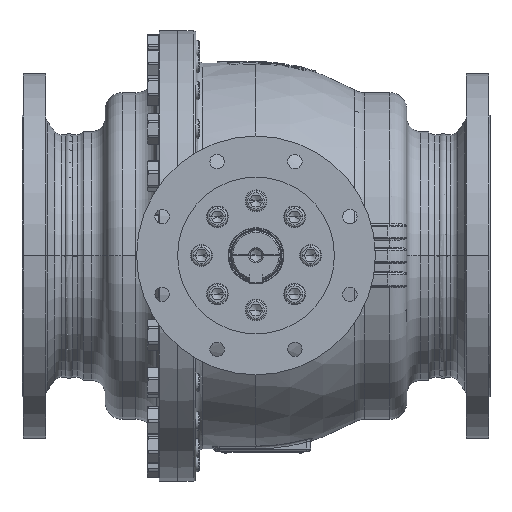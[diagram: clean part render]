
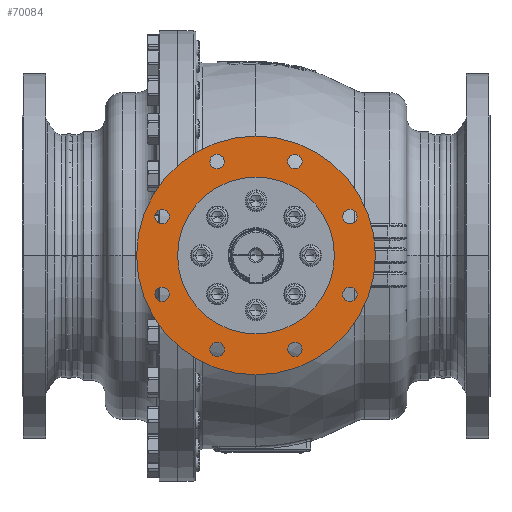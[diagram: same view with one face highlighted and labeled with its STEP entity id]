
A CAD part, top view. The second image highlights one B-rep face of the part: STEP entity #70084.
In plain terms, the highlighted planar face has unit normal (0, 0, 1).
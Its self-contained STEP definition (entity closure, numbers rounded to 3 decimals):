
#3272=CARTESIAN_POINT('',(0.,0.,440.));
#3273=DIRECTION('',(0.,0.,1.));
#3274=DIRECTION('',(1.,0.,0.));
#3275=AXIS2_PLACEMENT_3D('',#3272,#3273,#3274);
#3277=CARTESIAN_POINT('',(0.,0.,440.));
#3278=DIRECTION('',(0.,0.,-1.));
#3279=DIRECTION('',(1.,0.,0.));
#3280=AXIS2_PLACEMENT_3D('',#3277,#3278,#3279);
#3282=CARTESIAN_POINT('',(-57.02,137.658,440.));
#3283=DIRECTION('',(0.,0.,-1.));
#3284=DIRECTION('',(-1.,0.,0.));
#3285=AXIS2_PLACEMENT_3D('',#3282,#3283,#3284);
#3287=CARTESIAN_POINT('',(-57.02,137.658,440.));
#3288=DIRECTION('',(0.,0.,-1.));
#3289=DIRECTION('',(1.,0.,0.));
#3290=AXIS2_PLACEMENT_3D('',#3287,#3288,#3289);
#3292=CARTESIAN_POINT('',(57.02,137.658,440.));
#3293=DIRECTION('',(0.,0.,-1.));
#3294=DIRECTION('',(-0.707,0.707,0.));
#3295=AXIS2_PLACEMENT_3D('',#3292,#3293,#3294);
#3297=CARTESIAN_POINT('',(57.02,137.658,440.));
#3298=DIRECTION('',(0.,0.,-1.));
#3299=DIRECTION('',(0.707,-0.707,0.));
#3300=AXIS2_PLACEMENT_3D('',#3297,#3298,#3299);
#3302=CARTESIAN_POINT('',(137.658,57.02,440.));
#3303=DIRECTION('',(0.,0.,-1.));
#3304=DIRECTION('',(0.,1.,0.));
#3305=AXIS2_PLACEMENT_3D('',#3302,#3303,#3304);
#3307=CARTESIAN_POINT('',(137.658,57.02,440.));
#3308=DIRECTION('',(0.,0.,-1.));
#3309=DIRECTION('',(0.,-1.,0.));
#3310=AXIS2_PLACEMENT_3D('',#3307,#3308,#3309);
#3312=CARTESIAN_POINT('',(137.658,-57.02,440.));
#3313=DIRECTION('',(0.,0.,-1.));
#3314=DIRECTION('',(0.707,0.707,0.));
#3315=AXIS2_PLACEMENT_3D('',#3312,#3313,#3314);
#3317=CARTESIAN_POINT('',(137.658,-57.02,440.));
#3318=DIRECTION('',(0.,0.,-1.));
#3319=DIRECTION('',(-0.707,-0.707,0.));
#3320=AXIS2_PLACEMENT_3D('',#3317,#3318,#3319);
#3322=CARTESIAN_POINT('',(57.02,-137.658,440.));
#3323=DIRECTION('',(0.,0.,-1.));
#3324=DIRECTION('',(1.,0.,0.));
#3325=AXIS2_PLACEMENT_3D('',#3322,#3323,#3324);
#3327=CARTESIAN_POINT('',(57.02,-137.658,440.));
#3328=DIRECTION('',(0.,0.,-1.));
#3329=DIRECTION('',(-1.,0.,0.));
#3330=AXIS2_PLACEMENT_3D('',#3327,#3328,#3329);
#3332=CARTESIAN_POINT('',(-57.02,-137.658,440.));
#3333=DIRECTION('',(0.,0.,-1.));
#3334=DIRECTION('',(0.707,-0.707,0.));
#3335=AXIS2_PLACEMENT_3D('',#3332,#3333,#3334);
#3337=CARTESIAN_POINT('',(-57.02,-137.658,440.));
#3338=DIRECTION('',(0.,0.,-1.));
#3339=DIRECTION('',(-0.707,0.707,0.));
#3340=AXIS2_PLACEMENT_3D('',#3337,#3338,#3339);
#3342=CARTESIAN_POINT('',(-137.658,-57.02,440.));
#3343=DIRECTION('',(0.,0.,-1.));
#3344=DIRECTION('',(0.,-1.,0.));
#3345=AXIS2_PLACEMENT_3D('',#3342,#3343,#3344);
#3347=CARTESIAN_POINT('',(-137.658,-57.02,440.));
#3348=DIRECTION('',(0.,0.,-1.));
#3349=DIRECTION('',(0.,1.,0.));
#3350=AXIS2_PLACEMENT_3D('',#3347,#3348,#3349);
#3352=CARTESIAN_POINT('',(-137.658,57.02,440.));
#3353=DIRECTION('',(0.,0.,-1.));
#3354=DIRECTION('',(-0.707,-0.707,0.));
#3355=AXIS2_PLACEMENT_3D('',#3352,#3353,#3354);
#3357=CARTESIAN_POINT('',(-137.658,57.02,440.));
#3358=DIRECTION('',(0.,0.,-1.));
#3359=DIRECTION('',(0.707,0.707,0.));
#3360=AXIS2_PLACEMENT_3D('',#3357,#3358,#3359);
#3366=CARTESIAN_POINT('',(0.,0.,440.));
#3367=DIRECTION('',(0.,0.,-1.));
#3368=DIRECTION('',(1.,0.,0.));
#3369=AXIS2_PLACEMENT_3D('',#3366,#3367,#3368);
#3375=CARTESIAN_POINT('',(0.,0.,440.));
#3376=DIRECTION('',(0.,0.,1.));
#3377=DIRECTION('',(1.,0.,0.));
#3378=AXIS2_PLACEMENT_3D('',#3375,#3376,#3377);
#65634=CARTESIAN_POINT('',(115.,0.,440.));
#65636=VERTEX_POINT('',#65634);
#65638=CARTESIAN_POINT('',(-115.,0.,440.));
#65640=VERTEX_POINT('',#65638);
#65711=CARTESIAN_POINT('',(175.,0.,440.));
#65713=VERTEX_POINT('',#65711);
#65715=CARTESIAN_POINT('',(-175.,0.,440.));
#65717=VERTEX_POINT('',#65715);
#65790=CARTESIAN_POINT('',(-67.52,137.658,440.));
#65791=CARTESIAN_POINT('',(-46.52,137.658,440.));
#65792=VERTEX_POINT('',#65790);
#65793=VERTEX_POINT('',#65791);
#65798=CARTESIAN_POINT('',(49.595,145.083,440.));
#65799=CARTESIAN_POINT('',(64.444,130.233,440.));
#65800=VERTEX_POINT('',#65798);
#65801=VERTEX_POINT('',#65799);
#65806=CARTESIAN_POINT('',(137.658,67.52,440.));
#65807=CARTESIAN_POINT('',(137.658,46.52,440.));
#65808=VERTEX_POINT('',#65806);
#65809=VERTEX_POINT('',#65807);
#65814=CARTESIAN_POINT('',(145.083,-49.595,440.));
#65815=CARTESIAN_POINT('',(130.233,-64.444,440.));
#65816=VERTEX_POINT('',#65814);
#65817=VERTEX_POINT('',#65815);
#65822=CARTESIAN_POINT('',(67.52,-137.658,440.));
#65823=CARTESIAN_POINT('',(46.52,-137.658,440.));
#65824=VERTEX_POINT('',#65822);
#65825=VERTEX_POINT('',#65823);
#65830=CARTESIAN_POINT('',(-49.595,-145.083,440.));
#65831=CARTESIAN_POINT('',(-64.444,-130.233,440.));
#65832=VERTEX_POINT('',#65830);
#65833=VERTEX_POINT('',#65831);
#65838=CARTESIAN_POINT('',(-137.658,-67.52,440.));
#65839=CARTESIAN_POINT('',(-137.658,-46.52,440.));
#65840=VERTEX_POINT('',#65838);
#65841=VERTEX_POINT('',#65839);
#65846=CARTESIAN_POINT('',(-145.083,49.595,440.));
#65847=CARTESIAN_POINT('',(-130.233,64.444,440.));
#65848=VERTEX_POINT('',#65846);
#65849=VERTEX_POINT('',#65847);
#70021=CARTESIAN_POINT('',(0.,0.,440.));
#70022=DIRECTION('',(0.,0.,1.));
#70023=DIRECTION('',(1.,0.,0.));
#70024=AXIS2_PLACEMENT_3D('',#70021,#70022,#70023);
#70025=PLANE('',#70024);
#70026=ORIENTED_EDGE('',*,*,#70014,.F.);
#70027=ORIENTED_EDGE('',*,*,#70003,.T.);
#70028=EDGE_LOOP('',(#70026,#70027));
#70029=FACE_OUTER_BOUND('',#70028,.F.);
#70031=ORIENTED_EDGE('',*,*,#70030,.F.);
#70033=ORIENTED_EDGE('',*,*,#70032,.T.);
#70034=EDGE_LOOP('',(#70031,#70033));
#70035=FACE_BOUND('',#70034,.F.);
#70037=ORIENTED_EDGE('',*,*,#70036,.F.);
#70039=ORIENTED_EDGE('',*,*,#70038,.F.);
#70040=EDGE_LOOP('',(#70037,#70039));
#70041=FACE_BOUND('',#70040,.F.);
#70043=ORIENTED_EDGE('',*,*,#70042,.F.);
#70045=ORIENTED_EDGE('',*,*,#70044,.F.);
#70046=EDGE_LOOP('',(#70043,#70045));
#70047=FACE_BOUND('',#70046,.F.);
#70049=ORIENTED_EDGE('',*,*,#70048,.F.);
#70051=ORIENTED_EDGE('',*,*,#70050,.F.);
#70052=EDGE_LOOP('',(#70049,#70051));
#70053=FACE_BOUND('',#70052,.F.);
#70055=ORIENTED_EDGE('',*,*,#70054,.F.);
#70057=ORIENTED_EDGE('',*,*,#70056,.F.);
#70058=EDGE_LOOP('',(#70055,#70057));
#70059=FACE_BOUND('',#70058,.F.);
#70061=ORIENTED_EDGE('',*,*,#70060,.F.);
#70063=ORIENTED_EDGE('',*,*,#70062,.F.);
#70064=EDGE_LOOP('',(#70061,#70063));
#70065=FACE_BOUND('',#70064,.F.);
#70067=ORIENTED_EDGE('',*,*,#70066,.F.);
#70069=ORIENTED_EDGE('',*,*,#70068,.F.);
#70070=EDGE_LOOP('',(#70067,#70069));
#70071=FACE_BOUND('',#70070,.F.);
#70073=ORIENTED_EDGE('',*,*,#70072,.F.);
#70075=ORIENTED_EDGE('',*,*,#70074,.F.);
#70076=EDGE_LOOP('',(#70073,#70075));
#70077=FACE_BOUND('',#70076,.F.);
#70079=ORIENTED_EDGE('',*,*,#70078,.F.);
#70081=ORIENTED_EDGE('',*,*,#70080,.F.);
#70082=EDGE_LOOP('',(#70079,#70081));
#70083=FACE_BOUND('',#70082,.F.);
#70084=ADVANCED_FACE('',(#70029,#70035,#70041,#70047,#70053,#70059,#70065,
#70071,#70077,#70083),#70025,.T.);
#3276=CIRCLE('',#3275,175.);
#3281=CIRCLE('',#3280,175.);
#3286=CIRCLE('',#3285,10.5);
#3291=CIRCLE('',#3290,10.5);
#3296=CIRCLE('',#3295,10.5);
#3301=CIRCLE('',#3300,10.5);
#3306=CIRCLE('',#3305,10.5);
#3311=CIRCLE('',#3310,10.5);
#3316=CIRCLE('',#3315,10.5);
#3321=CIRCLE('',#3320,10.5);
#3326=CIRCLE('',#3325,10.5);
#3331=CIRCLE('',#3330,10.5);
#3336=CIRCLE('',#3335,10.5);
#3341=CIRCLE('',#3340,10.5);
#3346=CIRCLE('',#3345,10.5);
#3351=CIRCLE('',#3350,10.5);
#3356=CIRCLE('',#3355,10.5);
#3361=CIRCLE('',#3360,10.5);
#3370=CIRCLE('',#3369,115.);
#3379=CIRCLE('',#3378,115.);
#70003=EDGE_CURVE('',#65713,#65717,#3281,.T.);
#70014=EDGE_CURVE('',#65713,#65717,#3276,.T.);
#70030=EDGE_CURVE('',#65636,#65640,#3370,.T.);
#70032=EDGE_CURVE('',#65636,#65640,#3379,.T.);
#70036=EDGE_CURVE('',#65792,#65793,#3286,.T.);
#70038=EDGE_CURVE('',#65793,#65792,#3291,.T.);
#70042=EDGE_CURVE('',#65800,#65801,#3296,.T.);
#70044=EDGE_CURVE('',#65801,#65800,#3301,.T.);
#70048=EDGE_CURVE('',#65808,#65809,#3306,.T.);
#70050=EDGE_CURVE('',#65809,#65808,#3311,.T.);
#70054=EDGE_CURVE('',#65816,#65817,#3316,.T.);
#70056=EDGE_CURVE('',#65817,#65816,#3321,.T.);
#70060=EDGE_CURVE('',#65824,#65825,#3326,.T.);
#70062=EDGE_CURVE('',#65825,#65824,#3331,.T.);
#70066=EDGE_CURVE('',#65832,#65833,#3336,.T.);
#70068=EDGE_CURVE('',#65833,#65832,#3341,.T.);
#70072=EDGE_CURVE('',#65840,#65841,#3346,.T.);
#70074=EDGE_CURVE('',#65841,#65840,#3351,.T.);
#70078=EDGE_CURVE('',#65848,#65849,#3356,.T.);
#70080=EDGE_CURVE('',#65849,#65848,#3361,.T.);
